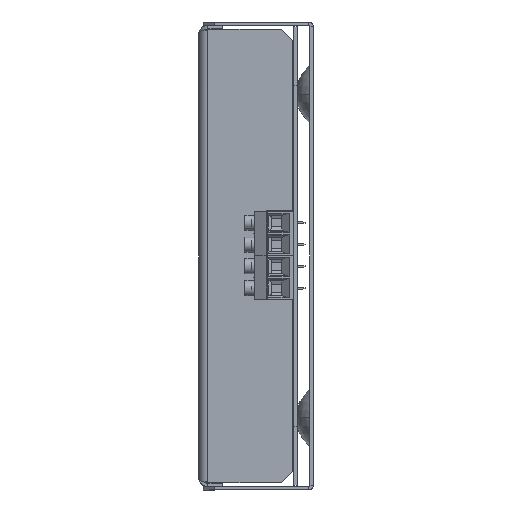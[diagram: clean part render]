
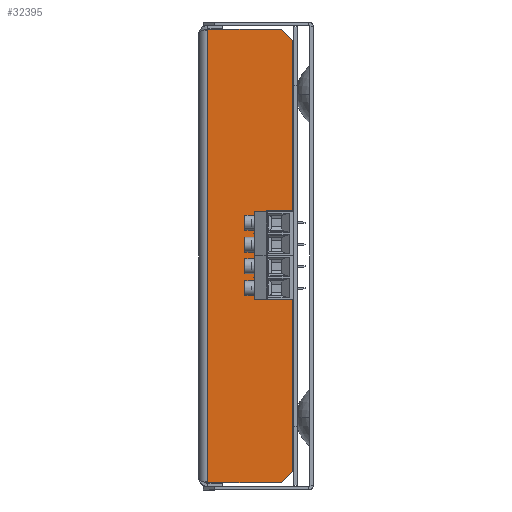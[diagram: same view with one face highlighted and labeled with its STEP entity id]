
A CAD part, left-side view. The second image highlights one B-rep face of the part: STEP entity #32395.
In plain terms, the highlighted planar face has unit normal (-1, 0, 0).
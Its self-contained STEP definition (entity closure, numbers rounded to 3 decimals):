
#2808 = DIRECTION ( 'NONE',  ( 0., 0.707, 0.707 ) ) ;
#4596 = PLANE ( 'NONE',  #6400 ) ;
#6032 = EDGE_CURVE ( 'NONE', #43061, #9217, #30634, .T. ) ;
#6400 = AXIS2_PLACEMENT_3D ( 'NONE', #34438, #41085, #21289 ) ;
#7021 = CARTESIAN_POINT ( 'NONE',  ( -85., -67.465, -67.465 ) ) ;
#8241 = CARTESIAN_POINT ( 'NONE',  ( -85., -36., -98.929 ) ) ;
#9217 = VERTEX_POINT ( 'NONE', #31350 ) ;
#9830 = ORIENTED_EDGE ( 'NONE', *, *, #41884, .F. ) ;
#10173 = CARTESIAN_POINT ( 'NONE',  ( -85., -4., -98.929 ) ) ;
#10365 = DIRECTION ( 'NONE',  ( 0., -0.707, 0.707 ) ) ;
#11809 = CARTESIAN_POINT ( 'NONE',  ( -85., -4., 0. ) ) ;
#12752 = CARTESIAN_POINT ( 'NONE',  ( -85., -67.465, 67.465 ) ) ;
#13119 = ORIENTED_EDGE ( 'NONE', *, *, #22236, .T. ) ;
#15125 = DIRECTION ( 'NONE',  ( 0., 0., -1. ) ) ;
#16127 = CARTESIAN_POINT ( 'NONE',  ( -85., -4., 98.929 ) ) ;
#18599 = CARTESIAN_POINT ( 'NONE',  ( -85., -4., 98.929 ) ) ;
#19184 = VECTOR ( 'NONE', #27072, 1000. ) ;
#20313 = FACE_OUTER_BOUND ( 'NONE', #35108, .T. ) ;
#21289 = DIRECTION ( 'NONE',  ( 0., -1., 0. ) ) ;
#22236 = EDGE_CURVE ( 'NONE', #38745, #33346, #34918, .T. ) ;
#23352 = VECTOR ( 'NONE', #30032, 1000. ) ;
#23418 = VECTOR ( 'NONE', #39251, 1000. ) ;
#24459 = LINE ( 'NONE', #16127, #23418 ) ;
#26145 = VECTOR ( 'NONE', #2808, 1000. ) ;
#27072 = DIRECTION ( 'NONE',  ( 0., 0., -1. ) ) ;
#27121 = ORIENTED_EDGE ( 'NONE', *, *, #6032, .T. ) ;
#28588 = VECTOR ( 'NONE', #10365, 1000. ) ;
#29020 = LINE ( 'NONE', #33716, #19184 ) ;
#29550 = EDGE_CURVE ( 'NONE', #38745, #9217, #29020, .T. ) ;
#30001 = EDGE_CURVE ( 'NONE', #33627, #31892, #40299, .T. ) ;
#30032 = DIRECTION ( 'NONE',  ( 0., -1., 0. ) ) ;
#30327 = ORIENTED_EDGE ( 'NONE', *, *, #35662, .T. ) ;
#30634 = LINE ( 'NONE', #7021, #28588 ) ;
#31350 = CARTESIAN_POINT ( 'NONE',  ( -85., -41., -93.929 ) ) ;
#31742 = CARTESIAN_POINT ( 'NONE',  ( -85., -4., -98.929 ) ) ;
#31892 = VERTEX_POINT ( 'NONE', #31742 ) ;
#32395 = ADVANCED_FACE ( 'NONE', ( #20313 ), #4596, .T. ) ;
#33346 = VERTEX_POINT ( 'NONE', #36826 ) ;
#33627 = VERTEX_POINT ( 'NONE', #18599 ) ;
#33716 = CARTESIAN_POINT ( 'NONE',  ( -85., -41., -97. ) ) ;
#34013 = ORIENTED_EDGE ( 'NONE', *, *, #29550, .F. ) ;
#34438 = CARTESIAN_POINT ( 'NONE',  ( -85., 0., 0. ) ) ;
#34918 = LINE ( 'NONE', #12752, #26145 ) ;
#35108 = EDGE_LOOP ( 'NONE', ( #30327, #27121, #34013, #13119, #9830, #40200 ) ) ;
#35662 = EDGE_CURVE ( 'NONE', #31892, #43061, #40931, .T. ) ;
#36061 = CARTESIAN_POINT ( 'NONE',  ( -85., -41., 93.929 ) ) ;
#36826 = CARTESIAN_POINT ( 'NONE',  ( -85., -36., 98.929 ) ) ;
#38745 = VERTEX_POINT ( 'NONE', #36061 ) ;
#39251 = DIRECTION ( 'NONE',  ( 0., -1., 0. ) ) ;
#39284 = VECTOR ( 'NONE', #15125, 1000. ) ;
#40200 = ORIENTED_EDGE ( 'NONE', *, *, #30001, .T. ) ;
#40299 = LINE ( 'NONE', #11809, #39284 ) ;
#40931 = LINE ( 'NONE', #10173, #23352 ) ;
#41085 = DIRECTION ( 'NONE',  ( -1., 0., 0. ) ) ;
#41884 = EDGE_CURVE ( 'NONE', #33627, #33346, #24459, .T. ) ;
#43061 = VERTEX_POINT ( 'NONE', #8241 ) ;
